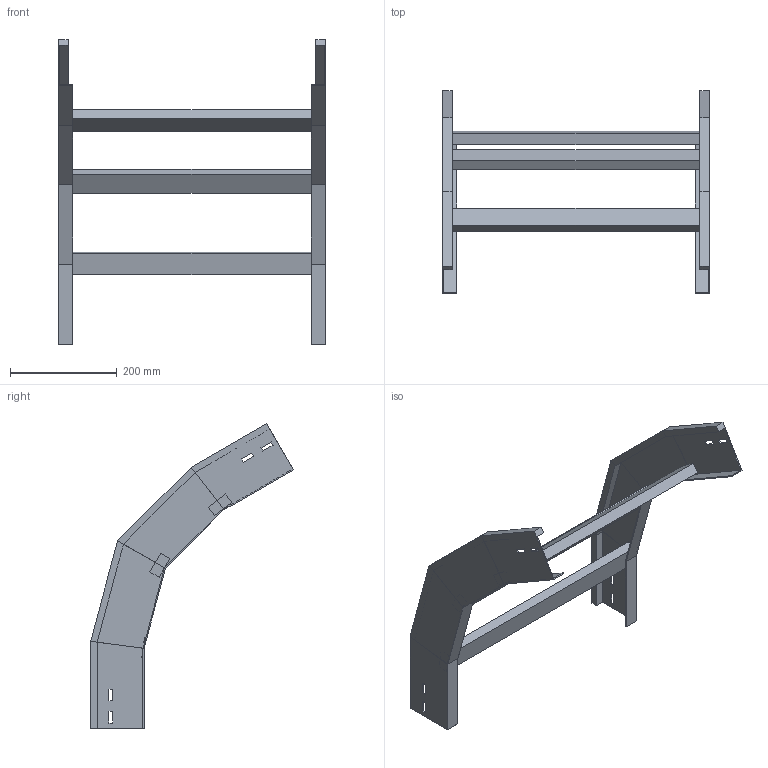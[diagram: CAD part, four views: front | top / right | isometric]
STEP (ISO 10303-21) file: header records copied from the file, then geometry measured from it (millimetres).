
FILE_DESCRIPTION (( 'STEP AP214' ), '1' );
FILE_NAME ('A2_41B3D500.step', '2025-02-21T14:56:42', ( '' ), ( '' ), 'SwSTEP 2.0', 'SolidWorks 2023', '' );
FILE_SCHEMA (( 'AUTOMOTIVE_DESIGN' ));
Length unit declared in the file: millimetre
Products named in the file (3): TRAVERSINO_500; LONGH.DISCESA_60°_H100_R300; A2_41B3D500
Assembly tree (5 placements, depth 2):
  A2_41B3D500
    LONGH.DISCESA_60°_H100_R300  x2
    TRAVERSINO_500  x3
Bounding box: 500 x 379.62 x 570.92 mm (x, y, z)
Volume: 1801764.7 mm3; surface area: 562233.5 mm2
Topology: 5 solids, 5 shells, 118 faces, 276 edges, 168 vertices
Faces by surface type: plane 118
Entity records: 1672 total; most frequent: CARTESIAN_POINT 276, ORIENTED_EDGE 264, DIRECTION 260, EDGE_CURVE 132, VECTOR 132, LINE 132, VERTEX_POINT 80, EDGE_LOOP 64
